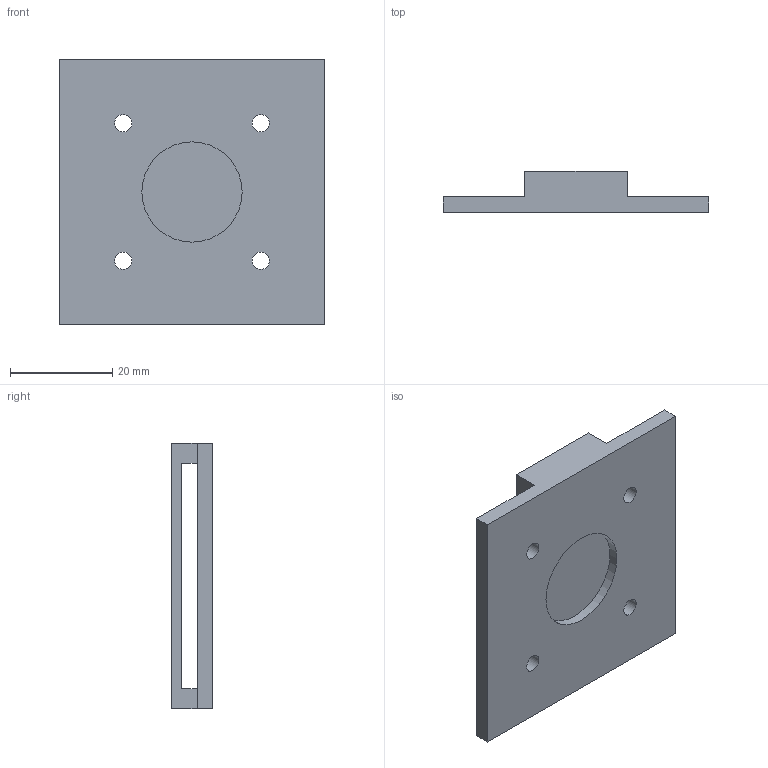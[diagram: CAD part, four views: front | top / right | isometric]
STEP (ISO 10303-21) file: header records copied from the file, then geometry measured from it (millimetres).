
FILE_DESCRIPTION(('Open CASCADE Model'),'2;1');
FILE_NAME('Open CASCADE Shape Model','2026-11-11T10:48:34',('Author'),( 'Open CASCADE'),'Open CASCADE STEP processor 7.9','Open CASCADE 7.9' ,'Unknown');
FILE_SCHEMA(('AUTOMOTIVE_DESIGN { 1 0 10303 214 1 1 1 1 }'));
Length unit declared in the file: millimetre
Products named in the file (1): Open CASCADE STEP translator 7.9 6
Bounding box: 52 x 8 x 52 mm (x, y, z)
Volume: 9957.8 mm3; surface area: 8572.5 mm2
Topology: 1 solids, 1 shells, 34 faces, 99 edges, 66 vertices
Faces by surface type: plane 29, cylinder 5
Full cylindrical faces by diameter (mm): 3.4 x4, 19.6 x1
Entity records: 2446 total; most frequent: CARTESIAN_POINT 398, DIRECTION 377, LINE 277, VECTOR 277, ORIENTED_EDGE 198, PCURVE 198, DEFINITIONAL_REPRESENTATION 198, EDGE_CURVE 99
